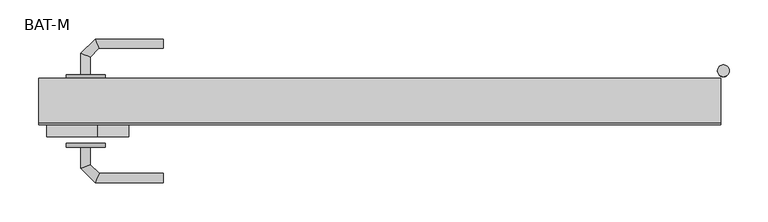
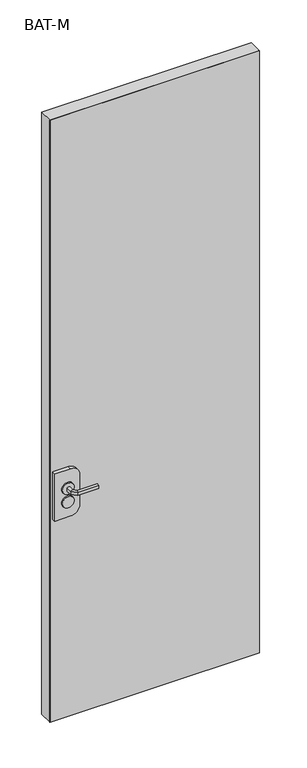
"""IFC4 building model written with IfcOpenShell, lengths in millimetres: proxy geometry, BAT-M : 85-GOALFVITRE."""

from ifc_helpers import new_model, si_unit, point, frame, frame_2d, origin, place, context, project, spatial, polyline, circle_curve, ellipse_curve, trimmed, segment, composite_curve, outline, extrude, source, transform, mapped, element, save
from ifc_brep_helpers import plane_surface, cylinder_surface, advanced_brep


def bat_m_cc978436(model_context):
    return source(origin(), model_context, "Body", "SolidModel", [
        extrude(outline(composite_curve([segment(polyline([(1126.0, -805.5306002), (1126.0, -870.5306002), (916.0, -870.5306002), (916.0, -805.5306002)]), True, "CONTINUOUS"), segment(trimmed(circle_curve(frame_2d((956.0, -805.5306002)), 40.0), [point((916.0, -805.5306002))], [point((956.0, -765.5306002))], False, "CARTESIAN"), True, "CONTINUOUS"), segment(polyline([(956.0, -765.5306002), (1086.0, -765.5306002)]), True, "CONTINUOUS"), segment(trimmed(circle_curve(frame_2d((1086.0, -805.5306002)), 40.0), [point((1086.0, -765.5306002))], [point((1126.0, -805.5306002))], False, "CARTESIAN"), True, "CONTINUOUS")], self_intersect=False)), frame((0.0, -74.8400086, 0.0), z_axis=(0.0, 1.0, 0.0), x_axis=(0.0, 0.0, 1.0)), (0.0, 0.0, 1.0), 66.9267377),
        extrude(outline(composite_curve([segment(trimmed(circle_curve(frame_2d((1051.0, -820.7739009)), 25.0), [point((1051.0, -845.7739009))], [point((1051.0, -795.7739009))], False, "CARTESIAN"), True, "CONTINUOUS"), segment(trimmed(circle_curve(frame_2d((1051.0, -820.7739009)), 25.0), [point((1051.0, -795.7739009))], [point((1051.0, -845.7739009))], False, "CARTESIAN"), True, "CONTINUOUS")], self_intersect=False)), frame((0.0, -88.0, 0.0), z_axis=(0.0, 1.0, 0.0), x_axis=(0.0, 0.0, 1.0)), (0.0, 0.0, 1.0), 5.0),
        extrude(outline(composite_curve([segment(trimmed(circle_curve(frame_2d((991.25, -820.9257392)), 25.0), [point((991.25, -845.9257392))], [point((991.25, -795.9257392))], False, "CARTESIAN"), True, "CONTINUOUS"), segment(trimmed(circle_curve(frame_2d((991.25, -820.9257392)), 25.0), [point((991.25, -795.9257392))], [point((991.25, -845.9257392))], False, "CARTESIAN"), True, "CONTINUOUS")], self_intersect=False)), frame((0.0, -88.0, 0.0), z_axis=(0.0, 1.0, 0.0), x_axis=(0.0, 0.0, 1.0)), (0.0, 0.0, 1.0), 5.0),
        advanced_brep(
        [(-815.0, -88.0, 1044.0), (-827.0, -88.0, 1044.0), (-827.0, -88.0, 1058.0), (-815.0, -88.0, 1058.0), (-815.0, -110.4852045, 1058.0), (-815.0, -110.4852045, 1044.0), (-827.0, -115.4557673, 1058.0), (-827.0, -115.4557673, 1044.0), (-803.5147186, -121.9704859, 1058.0), (-803.5147186, -121.9704859, 1044.0), (-808.4852814, -133.9704859, 1058.0), (-808.4852814, -133.9704859, 1044.0), (-720.9542163, -121.9704859, 1044.0), (-720.9542163, -121.9704859, 1058.0), (-720.9542163, -133.9704859, 1058.0), (-720.9542163, -133.9704859, 1044.0)],
        [
            (0, 1, circle_curve(frame((-821.0, -88.0, 1064.0457722), z_axis=(0.0, 1.0, 0.0), x_axis=(-1.0, 0.0, 0.0)), 20.9244589)),
            (1, 2),
            (2, 3, circle_curve(frame((-821.0, -88.0, 1037.9542278), z_axis=(0.0, 1.0, 0.0), x_axis=(-1.0, 0.0, 0.0)), 20.9244589)),
            (3, 0),
            (3, 4),
            (4, 5),
            (5, 0),
            (2, 6),
            (6, 4, ellipse_curve(frame((-821.0, -112.9704859, 1037.9542278), z_axis=(-0.3826834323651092, 0.9238795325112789, 0.0), x_axis=(0.9238795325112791, 0.3826834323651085, 0.0)), 22.6484711, 20.9244589)),
            (1, 7),
            (7, 6),
            (5, 7, ellipse_curve(frame((-821.0, -112.9704859, 1064.0457722), z_axis=(-0.3826834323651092, 0.9238795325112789, 0.0), x_axis=(0.9238795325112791, 0.3826834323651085, 0.0)), 22.6484711, 20.9244589)),
            (4, 8),
            (8, 9),
            (9, 5),
            (6, 10),
            (10, 8, ellipse_curve(frame((-806.0, -127.9704859, 1037.9542278), z_axis=(-0.923879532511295, 0.38268343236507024, 0.0), x_axis=(0.3826834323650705, 0.9238795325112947, 0.0)), 22.6484711, 20.9244589)),
            (7, 11),
            (11, 10),
            (9, 11, ellipse_curve(frame((-806.0, -127.9704859, 1064.0457722), z_axis=(-0.923879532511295, 0.38268343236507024, 0.0), x_axis=(0.3826834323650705, 0.9238795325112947, 0.0)), 22.6484711, 20.9244589)),
            (12, 13),
            (13, 14, circle_curve(frame((-720.9542163, -127.9704859, 1037.9542278), z_axis=(1.0, 0.0, 0.0), x_axis=(0.0, -1.0, 0.0)), 20.9244589)),
            (14, 15),
            (15, 12, circle_curve(frame((-720.9542163, -127.9704859, 1064.0457722), z_axis=(1.0, 0.0, 0.0), x_axis=(0.0, -1.0, 0.0)), 20.9244589)),
            (8, 13),
            (12, 9),
            (10, 14),
            (11, 15),
        ],
        [
            plane_surface(frame((-830.2195445, -88.0, 1051.0), z_axis=(0.0, 1.0, 0.0), x_axis=(0.0, 0.0, 1.0))),
            plane_surface(frame((-815.0, -88.0, 1044.0), z_axis=(1.0, 0.0, 0.0), x_axis=(0.0, -1.0, 0.0))),
            cylinder_surface(frame((-821.0, -88.0, 1037.9542278), z_axis=(0.0, 1.0, 0.0), x_axis=(-1.0, 0.0, 0.0)), 20.9244589),
            plane_surface(frame((-827.0, -88.0, 1058.0), z_axis=(-1.0, 0.0, 0.0), x_axis=(0.0, -1.0, 0.0))),
            cylinder_surface(frame((-821.0, -88.0, 1064.0457722), z_axis=(0.0, 1.0, 0.0), x_axis=(-1.0, 0.0, 0.0)), 20.9244589),
            plane_surface(frame((-815.0, -110.4852045, 1044.0), z_axis=(0.7071067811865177, 0.7071067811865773, 0.0), x_axis=(0.7071067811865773, -0.7071067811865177, 0.0))),
            cylinder_surface(frame((-821.0, -112.9704859, 1037.9542278), z_axis=(-0.7071067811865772, 0.7071067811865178, 0.0), x_axis=(-0.7071067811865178, -0.7071067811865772, 0.0)), 20.9244589),
            plane_surface(frame((-827.0, -115.4557673, 1058.0), z_axis=(-0.7071067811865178, -0.7071067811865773, 0.0), x_axis=(0.7071067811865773, -0.7071067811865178, 0.0))),
            cylinder_surface(frame((-821.0, -112.9704859, 1064.0457722), z_axis=(-0.7071067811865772, 0.7071067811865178, 0.0), x_axis=(-0.7071067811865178, -0.7071067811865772, 0.0)), 20.9244589),
            plane_surface(frame((-720.9542163, -127.9704859, 1041.7804555), z_axis=(1.0, 0.0, 0.0), x_axis=(0.0, -1.0, 0.0))),
            plane_surface(frame((-803.5147186, -121.9704859, 1044.0), z_axis=(0.0, 1.0, 0.0), x_axis=(1.0, 0.0, 0.0))),
            cylinder_surface(frame((-806.0, -127.9704859, 1037.9542278), z_axis=(-1.0, 0.0, 0.0), x_axis=(0.0, -1.0, 0.0)), 20.9244589),
            plane_surface(frame((-808.4852814, -133.9704859, 1058.0), z_axis=(0.0, -1.0, 0.0), x_axis=(1.0, 0.0, 0.0))),
            cylinder_surface(frame((-806.0, -127.9704859, 1064.0457722), z_axis=(-1.0, 0.0, 0.0), x_axis=(0.0, -1.0, 0.0)), 20.9244589),
        ],
        [
            (0, [[1, 2, 3, 4]]),
            (1, [[5, 6, 7, -4]]),
            (2, [[8, 9, -5, -3]]),
            (3, [[10, 11, -8, -2]]),
            (4, [[-7, 12, -10, -1]]),
            (5, [[13, 14, 15, -6]]),
            (6, [[16, 17, -13, -9]]),
            (7, [[18, 19, -16, -11]]),
            (8, [[-15, 20, -18, -12]]),
            (9, [[21, 22, 23, 24]]),
            (10, [[25, -21, 26, -14]]),
            (11, [[27, -22, -25, -17]]),
            (12, [[28, -23, -27, -19]]),
            (13, [[-26, -24, -28, -20]]),
        ],
    ),
        advanced_brep(
        [(-827.0, 5.0, 1058.0), (-827.0, 5.0, 1044.0), (-815.0, 5.0, 1044.0), (-815.0, 5.0, 1058.0), (-815.0, 27.680388, 1058.0), (-827.0, 32.6509507, 1058.0), (-815.0, 27.680388, 1044.0), (-827.0, 32.6509507, 1044.0), (-803.6522273, 39.0281607, 1058.0), (-808.62279, 51.0281607, 1058.0), (-803.6522273, 39.0281607, 1044.0), (-808.62279, 51.0281607, 1044.0), (-720.9813594, 51.0281607, 1058.0), (-720.9813594, 39.0281607, 1058.0), (-720.9813594, 39.0281607, 1044.0), (-720.9813594, 51.0281607, 1044.0)],
        [
            (0, 1),
            (1, 2, circle_curve(frame((-821.0, 5.0, 1064.0457722), z_axis=(0.0, -1.0, 0.0), x_axis=(1.0, 0.0, 0.0)), 20.9244589)),
            (2, 3),
            (3, 0, circle_curve(frame((-821.0, 5.0, 1037.9542278), z_axis=(0.0, -1.0, 0.0), x_axis=(1.0, 0.0, 0.0)), 20.9244589)),
            (3, 4),
            (4, 5, ellipse_curve(frame((-821.0, 30.1656693, 1037.9542278), z_axis=(-0.38268343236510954, -0.9238795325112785, 0.0), x_axis=(0.9238795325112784, -0.38268343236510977, 0.0)), 22.6484711, 20.9244589)),
            (5, 0),
            (2, 6),
            (6, 4),
            (1, 7),
            (7, 6, ellipse_curve(frame((-821.0, 30.1656693, 1064.0457722), z_axis=(-0.38268343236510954, -0.9238795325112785, 0.0), x_axis=(0.9238795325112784, -0.38268343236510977, 0.0)), 22.6484711, 20.9244589)),
            (5, 7),
            (4, 8),
            (8, 9, ellipse_curve(frame((-806.1375086, 45.0281607, 1037.9542278), z_axis=(-0.9238795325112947, -0.38268343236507, 0.0), x_axis=(0.38268343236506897, -0.9238795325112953, 0.0)), 22.6484711, 20.9244589)),
            (9, 5),
            (6, 10),
            (10, 8),
            (7, 11),
            (11, 10, ellipse_curve(frame((-806.1375086, 45.0281607, 1064.0457722), z_axis=(-0.9238795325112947, -0.38268343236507, 0.0), x_axis=(0.38268343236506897, -0.9238795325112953, 0.0)), 22.6484711, 20.9244589)),
            (9, 11),
            (12, 13, circle_curve(frame((-720.9813594, 45.0281607, 1037.9542278), z_axis=(1.0, 0.0, 0.0), x_axis=(0.0, -1.0, 0.0)), 20.9244589)),
            (13, 14),
            (14, 15, circle_curve(frame((-720.9813594, 45.0281607, 1064.0457722), z_axis=(1.0, 0.0, 0.0), x_axis=(0.0, -1.0, 0.0)), 20.9244589)),
            (15, 12),
            (8, 13),
            (12, 9),
            (10, 14),
            (11, 15),
        ],
        [
            plane_surface(frame((-830.2195445, 5.0, 1051.0), z_axis=(0.0, -1.0, 0.0), x_axis=(0.0, 0.0, -1.0))),
            cylinder_surface(frame((-821.0, 5.0, 1037.9542278), z_axis=(0.0, -1.0, 0.0), x_axis=(1.0, 0.0, 0.0)), 20.9244589),
            plane_surface(frame((-815.0, 5.0, 1058.0), z_axis=(1.0, 0.0, 0.0), x_axis=(0.0, 1.0, 0.0))),
            cylinder_surface(frame((-821.0, 5.0, 1064.0457722), z_axis=(0.0, -1.0, 0.0), x_axis=(1.0, 0.0, 0.0)), 20.9244589),
            plane_surface(frame((-827.0, 5.0, 1044.0), z_axis=(-1.0, 0.0, 0.0), x_axis=(0.0, 1.0, 0.0))),
            cylinder_surface(frame((-821.0, 30.1656693, 1037.9542278), z_axis=(-0.7071067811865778, -0.7071067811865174, 0.0), x_axis=(0.7071067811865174, -0.7071067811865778, 0.0)), 20.9244589),
            plane_surface(frame((-815.0, 27.680388, 1058.0), z_axis=(0.707106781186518, -0.7071067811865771, 0.0), x_axis=(0.7071067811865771, 0.707106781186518, 0.0))),
            cylinder_surface(frame((-821.0, 30.1656693, 1064.0457722), z_axis=(-0.7071067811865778, -0.7071067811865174, 0.0), x_axis=(0.7071067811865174, -0.7071067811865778, 0.0)), 20.9244589),
            plane_surface(frame((-827.0, 32.6509507, 1044.0), z_axis=(-0.7071067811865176, 0.7071067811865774, 0.0), x_axis=(0.7071067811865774, 0.7071067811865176, 0.0))),
            plane_surface(frame((-720.9813594, 45.0281607, 1041.7804555), z_axis=(1.0, 0.0, 0.0), x_axis=(0.0, -1.0, 0.0))),
            cylinder_surface(frame((-806.1375086, 45.0281607, 1037.9542278), z_axis=(-1.0, 0.0, 0.0), x_axis=(0.0, -1.0, 0.0)), 20.9244589),
            plane_surface(frame((-803.6522273, 39.0281607, 1058.0), z_axis=(0.0, -1.0, 0.0), x_axis=(1.0, 0.0, 0.0))),
            cylinder_surface(frame((-806.1375086, 45.0281607, 1064.0457722), z_axis=(-1.0, 0.0, 0.0), x_axis=(0.0, -1.0, 0.0)), 20.9244589),
            plane_surface(frame((-808.62279, 51.0281607, 1044.0), z_axis=(0.0, 1.0, 0.0), x_axis=(1.0, 0.0, 0.0))),
        ],
        [
            (0, [[1, 2, 3, 4]]),
            (1, [[5, 6, 7, -4]]),
            (2, [[8, 9, -5, -3]]),
            (3, [[10, 11, -8, -2]]),
            (4, [[-7, 12, -10, -1]]),
            (5, [[13, 14, 15, -6]]),
            (6, [[16, 17, -13, -9]]),
            (7, [[18, 19, -16, -11]]),
            (8, [[-15, 20, -18, -12]]),
            (9, [[21, 22, 23, 24]]),
            (10, [[25, -21, 26, -14]]),
            (11, [[27, -22, -25, -17]]),
            (12, [[28, -23, -27, -19]]),
            (13, [[-26, -24, -28, -20]]),
        ],
    ),
        extrude(outline(composite_curve([segment(trimmed(circle_curve(frame_2d((1051.0, -820.7739009)), 25.0), [point((1051.0, -845.7739009))], [point((1051.0, -795.7739009))], False, "CARTESIAN"), True, "CONTINUOUS"), segment(trimmed(circle_curve(frame_2d((1051.0, -820.7739009)), 25.0), [point((1051.0, -795.7739009))], [point((1051.0, -845.7739009))], False, "CARTESIAN"), True, "CONTINUOUS")], self_intersect=False)), frame((0.0, 0.0, 0.0), z_axis=(0.0, 1.0, 0.0), x_axis=(0.0, 0.0, 1.0)), (0.0, 0.0, 1.0), 5.0),
        extrude(outline(composite_curve([segment(trimmed(circle_curve(frame_2d((991.0, -820.9257392)), 25.0), [point((991.0, -845.9257392))], [point((991.0, -795.9257392))], False, "CARTESIAN"), True, "CONTINUOUS"), segment(trimmed(circle_curve(frame_2d((991.0, -820.9257392)), 25.0), [point((991.0, -795.9257392))], [point((991.0, -845.9257392))], False, "CARTESIAN"), True, "CONTINUOUS")], self_intersect=False)), frame((0.0, 0.0, 0.0), z_axis=(0.0, 1.0, 0.0), x_axis=(0.0, 0.0, 1.0)), (0.0, 0.0, 1.0), 5.0),
        extrude(outline(polyline([(-3.0, -57.5), (-3.0, -59.5), (-881.0, -59.5), (-881.0, -57.5), (-3.0, -57.5)])), frame((0.0, 0.0, 19.0), z_axis=(0.0, 0.0, 1.0), x_axis=(1.0, 0.0, 0.0)), (0.0, 0.0, 1.0), 2668.0),
        extrude(outline(polyline([(-881.0, -57.5), (-3.0, -57.5), (-3.0, -59.5), (-881.0, -59.5), (-881.0, -57.5)])), frame((0.0, 0.0, 19.0), z_axis=(0.0, 0.0, 1.0), x_axis=(1.0, 0.0, 0.0)), (0.0, 0.0, 1.0), 2668.0),
        extrude(outline(polyline([(-881.0, -59.5), (-881.0, 0.0), (-3.0, 0.0), (-3.0, -59.5), (-881.0, -59.5)])), frame((0.0, 0.0, 19.0), z_axis=(0.0, 0.0, 1.0), x_axis=(1.0, 0.0, 0.0)), (0.0, 0.0, 1.0), 2668.0),
        extrude(outline(composite_curve([segment(trimmed(circle_curve(frame_2d((0.0, 10.0)), 7.5), [point((7.5, 10.0))], [point((-7.5, 10.0))], False, "CARTESIAN"), True, "CONTINUOUS"), segment(trimmed(circle_curve(frame_2d((0.0, 10.0)), 7.5), [point((-7.5, 10.0))], [point((7.5, 10.0))], False, "CARTESIAN"), True, "CONTINUOUS")], self_intersect=False)), frame((0.0, 0.0, 2364.5), z_axis=(0.0, 0.0, 1.0), x_axis=(1.0, 0.0, 0.0)), (0.0, 0.0, 1.0), 115.0),
        extrude(outline(composite_curve([segment(trimmed(circle_curve(frame_2d((0.0, 10.0)), 7.5), [point((7.5, 10.0))], [point((-7.5, 10.0))], False, "CARTESIAN"), True, "CONTINUOUS"), segment(trimmed(circle_curve(frame_2d((0.0, 10.0)), 7.5), [point((-7.5, 10.0))], [point((7.5, 10.0))], False, "CARTESIAN"), True, "CONTINUOUS")], self_intersect=False)), frame((0.0, 0.0, 1811.5), z_axis=(0.0, 0.0, 1.0), x_axis=(1.0, 0.0, 0.0)), (0.0, 0.0, 1.0), 115.0),
        extrude(outline(composite_curve([segment(trimmed(circle_curve(frame_2d((0.0, 10.0)), 7.5), [point((7.5, 10.0))], [point((-7.5, 10.0))], False, "CARTESIAN"), True, "CONTINUOUS"), segment(trimmed(circle_curve(frame_2d((0.0, 10.0)), 7.5), [point((-7.5, 10.0))], [point((7.5, 10.0))], False, "CARTESIAN"), True, "CONTINUOUS")], self_intersect=False)), frame((0.0, 0.0, 226.5), z_axis=(0.0, 0.0, 1.0), x_axis=(1.0, 0.0, 0.0)), (0.0, 0.0, 1.0), 115.0),
    ])


if __name__ == "__main__":
    model = new_model("IFC4")
    model_context = context("Model", 3, world=origin())
    ifc_project = project(units=[si_unit("LENGTHUNIT", "METRE", prefix="MILLI")], contexts=[model_context])
    site = spatial("IfcSite", under=ifc_project)
    building = spatial("IfcBuilding", under=site)
    placement = place(None, origin())
    bat_m_shape = bat_m_cc978436(model_context)
    element("IfcBuildingElementProxy", 1, Name="BAT-M : 85-GOALFVITRE", ObjectType="BAT-M : 85-GOALFVITRE", at=placement, inside=building, context=model_context, shape_type="MappedRepresentation", body=[
        mapped(bat_m_shape, transform((0.0, 0.0, 0.0), x_axis=(1.0, 0.0, 0.0), y_axis=(0.0, 1.0, 0.0), z_axis=(0.0, 0.0, 1.0))),
    ])
    save(model, "model.ifc")
